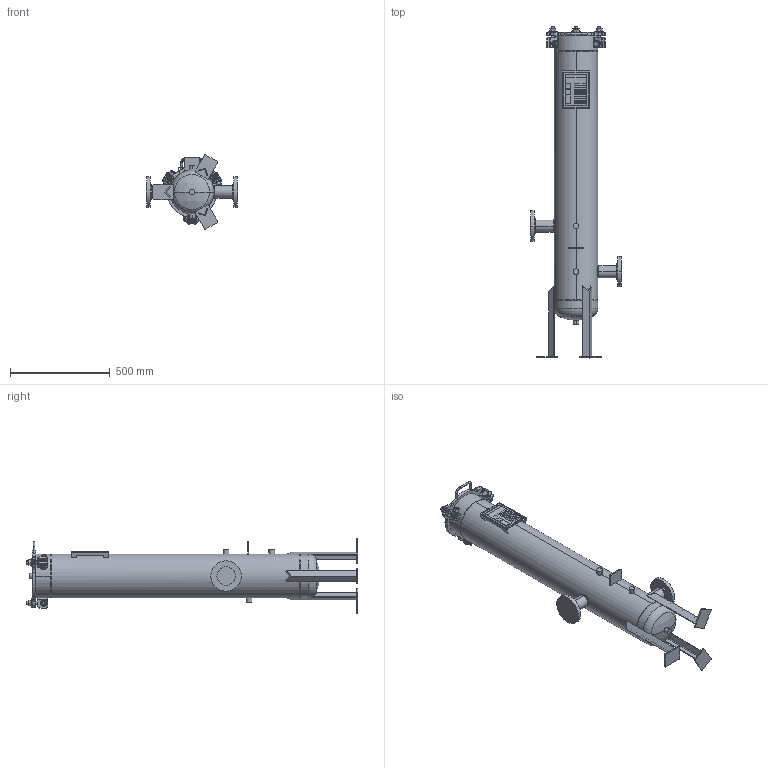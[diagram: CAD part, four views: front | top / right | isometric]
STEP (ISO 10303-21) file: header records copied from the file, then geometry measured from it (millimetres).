
FILE_DESCRIPTION (( 'STEP AP203' ), '1' );
FILE_NAME ('001001-01892.step', '2025-12-09T14:41:17', ( '' ), ( '' ), 'SwSTEP 2.0', 'SolidWorks 2023', '' );
FILE_SCHEMA (( 'CONFIG_CONTROL_DESIGN' ));
Length unit declared in the file: inch
Products named in the file (1): 001001-01892
Bounding box: 457.2 x 1662.11 x 373.87 mm (x, y, z)
Volume: 12280720.2 mm3; surface area: 2589242.9 mm2
Topology: 15 solids, 15 shells, 664 faces, 1563 edges, 997 vertices
Faces by surface type: plane 284, cylinder 216, cone 128, torus 24, bspline 10, sphere 2
Entity records: 21750 total; most frequent: CARTESIAN_POINT 6357, DIRECTION 3262, ORIENTED_EDGE 3126, EDGE_CURVE 1563, AXIS2_PLACEMENT_3D 1282, VERTEX_POINT 997, EDGE_LOOP 740, VECTOR 698
